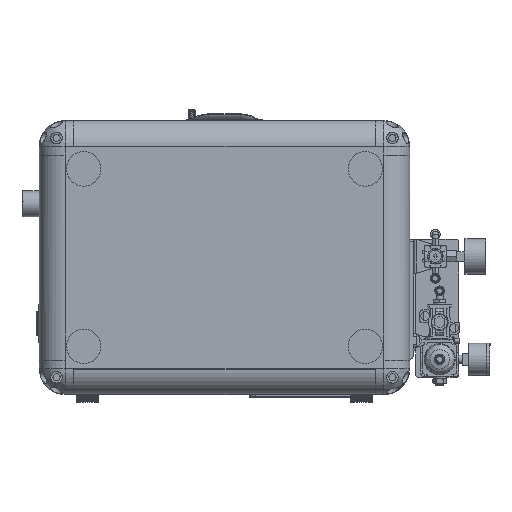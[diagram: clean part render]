
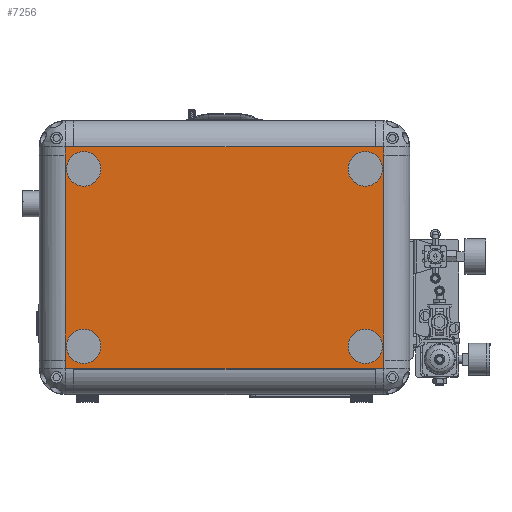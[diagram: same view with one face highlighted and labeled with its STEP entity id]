
A CAD part, front view. The second image highlights one B-rep face of the part: STEP entity #7256.
In plain terms, the highlighted planar face has unit normal (0, -1, 0).
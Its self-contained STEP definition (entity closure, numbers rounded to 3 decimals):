
#240 = ORIENTED_EDGE ( 'NONE', *, *, #31304, .F. ) ;
#1755 = VERTEX_POINT ( 'NONE', #123686 ) ;
#1967 = EDGE_LOOP ( 'NONE', ( #240 ) ) ;
#3193 = CARTESIAN_POINT ( 'NONE',  ( 6.433, -8.465, -4.843 ) ) ;
#3931 = EDGE_LOOP ( 'NONE', ( #29041, #46472, #39407, #37375, #93741, #21737, #105625, #134060, #4427, #49838, #134555, #97859 ) ) ;
#4427 = ORIENTED_EDGE ( 'NONE', *, *, #53804, .F. ) ;
#5126 = DIRECTION ( 'NONE',  ( 0., -1., 0. ) ) ;
#5869 = EDGE_CURVE ( 'NONE', #113897, #52328, #12586, .T. ) ;
#6228 = PLANE ( 'NONE',  #71190 ) ;
#6462 = EDGE_CURVE ( 'NONE', #26218, #39368, #132402, .T. ) ;
#7052 = CIRCLE ( 'NONE', #127163, 0.787 ) ;
#7256 = ADVANCED_FACE ( 'NONE', ( #27424, #89663, #17140, #129390, #80062 ), #6228, .T. ) ;
#8254 = VECTOR ( 'NONE', #54290, 39.37 ) ;
#8649 = CIRCLE ( 'NONE', #69846, 0.787 ) ;
#9671 = EDGE_CURVE ( 'NONE', #116941, #73330, #70401, .T. ) ;
#10294 = LINE ( 'NONE', #30142, #60796 ) ;
#10445 = CARTESIAN_POINT ( 'NONE',  ( -6.433, -8.465, -4.843 ) ) ;
#10631 = EDGE_CURVE ( 'NONE', #60061, #60061, #32379, .T. ) ;
#12586 = LINE ( 'NONE', #126828, #8254 ) ;
#12753 = CARTESIAN_POINT ( 'NONE',  ( 7.284, -8.465, -5.079 ) ) ;
#13466 = VERTEX_POINT ( 'NONE', #3193 ) ;
#17140 = FACE_BOUND ( 'NONE', #118651, .T. ) ;
#17438 = LINE ( 'NONE', #59156, #59918 ) ;
#17720 = CARTESIAN_POINT ( 'NONE',  ( -7.284, -8.465, 5.079 ) ) ;
#18092 = EDGE_CURVE ( 'NONE', #132140, #60560, #118086, .T. ) ;
#18203 = ORIENTED_EDGE ( 'NONE', *, *, #45415, .F. ) ;
#20688 = CARTESIAN_POINT ( 'NONE',  ( 6.89, -8.465, -5.079 ) ) ;
#21737 = ORIENTED_EDGE ( 'NONE', *, *, #23796, .F. ) ;
#23796 = EDGE_CURVE ( 'NONE', #70171, #113897, #109259, .T. ) ;
#25943 = LINE ( 'NONE', #97776, #100559 ) ;
#26167 = CARTESIAN_POINT ( 'NONE',  ( 7.284, -8.465, -5.079 ) ) ;
#26214 = EDGE_LOOP ( 'NONE', ( #94126 ) ) ;
#26218 = VERTEX_POINT ( 'NONE', #20688 ) ;
#27071 = CARTESIAN_POINT ( 'NONE',  ( 7.284, -8.465, -5.079 ) ) ;
#27424 = FACE_BOUND ( 'NONE', #94827, .T. ) ;
#29041 = ORIENTED_EDGE ( 'NONE', *, *, #101818, .F. ) ;
#29630 = CARTESIAN_POINT ( 'NONE',  ( -6.433, -8.465, 3.268 ) ) ;
#29700 = EDGE_CURVE ( 'NONE', #52328, #1755, #10294, .T. ) ;
#30142 = CARTESIAN_POINT ( 'NONE',  ( 7.284, -8.465, 5.079 ) ) ;
#30445 = DIRECTION ( 'NONE',  ( 0., 0., 1. ) ) ;
#31304 = EDGE_CURVE ( 'NONE', #13466, #13466, #103029, .T. ) ;
#32379 = CIRCLE ( 'NONE', #43331, 0.787 ) ;
#33748 = DIRECTION ( 'NONE',  ( 0., 0., -1. ) ) ;
#35658 = DIRECTION ( 'NONE',  ( 0., -1., 0. ) ) ;
#35834 = EDGE_CURVE ( 'NONE', #119149, #90737, #17438, .T. ) ;
#37375 = ORIENTED_EDGE ( 'NONE', *, *, #29700, .F. ) ;
#37616 = DIRECTION ( 'NONE',  ( 0., 0., 1. ) ) ;
#39368 = VERTEX_POINT ( 'NONE', #66620 ) ;
#39407 = ORIENTED_EDGE ( 'NONE', *, *, #131264, .F. ) ;
#43331 = AXIS2_PLACEMENT_3D ( 'NONE', #61517, #103250, #113511 ) ;
#43417 = CARTESIAN_POINT ( 'NONE',  ( -7.284, -8.465, -4.685 ) ) ;
#44394 = ORIENTED_EDGE ( 'NONE', *, *, #10631, .F. ) ;
#45415 = EDGE_CURVE ( 'NONE', #114415, #114415, #7052, .T. ) ;
#46472 = ORIENTED_EDGE ( 'NONE', *, *, #35834, .F. ) ;
#47586 = DIRECTION ( 'NONE',  ( -1., 0., 0. ) ) ;
#48987 = EDGE_CURVE ( 'NONE', #61739, #61739, #8649, .T. ) ;
#49838 = ORIENTED_EDGE ( 'NONE', *, *, #6462, .F. ) ;
#50966 = CARTESIAN_POINT ( 'NONE',  ( -7.284, -8.465, -5.079 ) ) ;
#51174 = VECTOR ( 'NONE', #69938, 39.37 ) ;
#52328 = VERTEX_POINT ( 'NONE', #84007 ) ;
#53804 = EDGE_CURVE ( 'NONE', #39368, #116941, #62067, .T. ) ;
#54239 = EDGE_CURVE ( 'NONE', #73330, #70171, #102965, .T. ) ;
#54290 = DIRECTION ( 'NONE',  ( 1., 0., 0. ) ) ;
#54526 = VECTOR ( 'NONE', #104469, 39.37 ) ;
#54970 = AXIS2_PLACEMENT_3D ( 'NONE', #85729, #124785, #33748 ) ;
#55842 = CARTESIAN_POINT ( 'NONE',  ( 7.284, -8.465, -5.079 ) ) ;
#59156 = CARTESIAN_POINT ( 'NONE',  ( 7.284, -8.465, -5.079 ) ) ;
#59918 = VECTOR ( 'NONE', #91297, 39.37 ) ;
#60061 = VERTEX_POINT ( 'NONE', #103806 ) ;
#60560 = VERTEX_POINT ( 'NONE', #26167 ) ;
#60796 = VECTOR ( 'NONE', #115617, 39.37 ) ;
#61517 = CARTESIAN_POINT ( 'NONE',  ( 6.433, -8.465, 4.055 ) ) ;
#61739 = VERTEX_POINT ( 'NONE', #29630 ) ;
#62067 = LINE ( 'NONE', #103798, #54526 ) ;
#66620 = CARTESIAN_POINT ( 'NONE',  ( -6.89, -8.465, -5.079 ) ) ;
#69846 = AXIS2_PLACEMENT_3D ( 'NONE', #111111, #5126, #111784 ) ;
#69938 = DIRECTION ( 'NONE',  ( 1., 0., 0. ) ) ;
#70171 = VERTEX_POINT ( 'NONE', #88084 ) ;
#70401 = LINE ( 'NONE', #90277, #91170 ) ;
#71190 = AXIS2_PLACEMENT_3D ( 'NONE', #121808, #35658, #109530 ) ;
#73330 = VERTEX_POINT ( 'NONE', #43417 ) ;
#77777 = DIRECTION ( 'NONE',  ( 0., 0., 1. ) ) ;
#80062 = FACE_OUTER_BOUND ( 'NONE', #3931, .T. ) ;
#80205 = CARTESIAN_POINT ( 'NONE',  ( 7.284, -8.465, 5.079 ) ) ;
#80521 = DIRECTION ( 'NONE',  ( 0., 0., -1. ) ) ;
#82480 = EDGE_CURVE ( 'NONE', #60560, #26218, #25943, .T. ) ;
#84007 = CARTESIAN_POINT ( 'NONE',  ( -6.89, -8.465, 5.079 ) ) ;
#84110 = VECTOR ( 'NONE', #47586, 39.37 ) ;
#85729 = CARTESIAN_POINT ( 'NONE',  ( 6.433, -8.465, -4.055 ) ) ;
#88084 = CARTESIAN_POINT ( 'NONE',  ( -7.284, -8.465, 4.685 ) ) ;
#89663 = FACE_BOUND ( 'NONE', #26214, .T. ) ;
#90277 = CARTESIAN_POINT ( 'NONE',  ( -7.284, -8.465, -5.079 ) ) ;
#90737 = VERTEX_POINT ( 'NONE', #116841 ) ;
#91152 = LINE ( 'NONE', #80205, #51174 ) ;
#91170 = VECTOR ( 'NONE', #37616, 39.37 ) ;
#91297 = DIRECTION ( 'NONE',  ( 0., 0., -1. ) ) ;
#92219 = VECTOR ( 'NONE', #107802, 39.37 ) ;
#93741 = ORIENTED_EDGE ( 'NONE', *, *, #5869, .F. ) ;
#94126 = ORIENTED_EDGE ( 'NONE', *, *, #48987, .F. ) ;
#94827 = EDGE_LOOP ( 'NONE', ( #44394 ) ) ;
#97776 = CARTESIAN_POINT ( 'NONE',  ( 7.284, -8.465, -5.079 ) ) ;
#97859 = ORIENTED_EDGE ( 'NONE', *, *, #18092, .F. ) ;
#100559 = VECTOR ( 'NONE', #107377, 39.37 ) ;
#101818 = EDGE_CURVE ( 'NONE', #90737, #132140, #119481, .T. ) ;
#102965 = LINE ( 'NONE', #50966, #111472 ) ;
#103029 = CIRCLE ( 'NONE', #54970, 0.787 ) ;
#103250 = DIRECTION ( 'NONE',  ( 0., -1., 0. ) ) ;
#103798 = CARTESIAN_POINT ( 'NONE',  ( -7.284, -8.465, -5.079 ) ) ;
#103806 = CARTESIAN_POINT ( 'NONE',  ( 6.433, -8.465, 3.268 ) ) ;
#104469 = DIRECTION ( 'NONE',  ( -1., 0., 0. ) ) ;
#105625 = ORIENTED_EDGE ( 'NONE', *, *, #54239, .F. ) ;
#107377 = DIRECTION ( 'NONE',  ( -1., 0., 0. ) ) ;
#107802 = DIRECTION ( 'NONE',  ( 0., 0., -1. ) ) ;
#109259 = LINE ( 'NONE', #130460, #121025 ) ;
#109457 = CARTESIAN_POINT ( 'NONE',  ( 7.284, -8.465, 5.079 ) ) ;
#109530 = DIRECTION ( 'NONE',  ( 0., 0., -1. ) ) ;
#111111 = CARTESIAN_POINT ( 'NONE',  ( -6.433, -8.465, 4.055 ) ) ;
#111472 = VECTOR ( 'NONE', #30445, 39.37 ) ;
#111784 = DIRECTION ( 'NONE',  ( 0., 0., -1. ) ) ;
#112107 = CARTESIAN_POINT ( 'NONE',  ( 7.284, -8.465, -4.685 ) ) ;
#112689 = CARTESIAN_POINT ( 'NONE',  ( -6.433, -8.465, -4.055 ) ) ;
#113511 = DIRECTION ( 'NONE',  ( 0., 0., -1. ) ) ;
#113897 = VERTEX_POINT ( 'NONE', #17720 ) ;
#114415 = VERTEX_POINT ( 'NONE', #10445 ) ;
#115617 = DIRECTION ( 'NONE',  ( 1., 0., 0. ) ) ;
#116841 = CARTESIAN_POINT ( 'NONE',  ( 7.284, -8.465, 4.685 ) ) ;
#116941 = VERTEX_POINT ( 'NONE', #120543 ) ;
#118086 = LINE ( 'NONE', #12753, #92219 ) ;
#118651 = EDGE_LOOP ( 'NONE', ( #18203 ) ) ;
#119149 = VERTEX_POINT ( 'NONE', #109457 ) ;
#119481 = LINE ( 'NONE', #55842, #135349 ) ;
#120543 = CARTESIAN_POINT ( 'NONE',  ( -7.284, -8.465, -5.079 ) ) ;
#121025 = VECTOR ( 'NONE', #77777, 39.37 ) ;
#121808 = CARTESIAN_POINT ( 'NONE',  ( -7.283, -8.465, -15. ) ) ;
#122281 = DIRECTION ( 'NONE',  ( 0., -1., 0. ) ) ;
#123686 = CARTESIAN_POINT ( 'NONE',  ( 6.89, -8.465, 5.079 ) ) ;
#124785 = DIRECTION ( 'NONE',  ( 0., -1., 0. ) ) ;
#126828 = CARTESIAN_POINT ( 'NONE',  ( 7.284, -8.465, 5.079 ) ) ;
#127163 = AXIS2_PLACEMENT_3D ( 'NONE', #112689, #122281, #80521 ) ;
#129390 = FACE_BOUND ( 'NONE', #1967, .T. ) ;
#129720 = DIRECTION ( 'NONE',  ( 0., 0., -1. ) ) ;
#130460 = CARTESIAN_POINT ( 'NONE',  ( -7.284, -8.465, 5.079 ) ) ;
#131264 = EDGE_CURVE ( 'NONE', #1755, #119149, #91152, .T. ) ;
#132140 = VERTEX_POINT ( 'NONE', #112107 ) ;
#132402 = LINE ( 'NONE', #27071, #84110 ) ;
#134060 = ORIENTED_EDGE ( 'NONE', *, *, #9671, .F. ) ;
#134555 = ORIENTED_EDGE ( 'NONE', *, *, #82480, .F. ) ;
#135349 = VECTOR ( 'NONE', #129720, 39.37 ) ;
